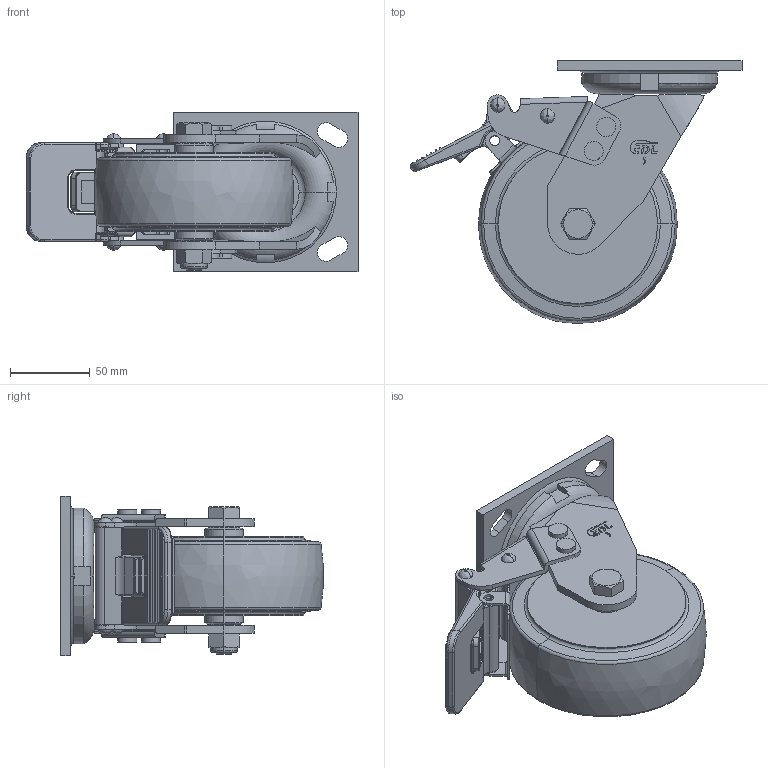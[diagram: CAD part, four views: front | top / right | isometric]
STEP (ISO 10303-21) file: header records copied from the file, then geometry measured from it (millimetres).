
FILE_DESCRIPTION((''),'2;1');
FILE_NAME('73125H-735-86_ASM','2020-11-27T',('lenovo'),(''),'PRO/ENGINEER BY PARAMETRIC TECHNOLOGY CORPORATION, 2010280','PRO/ENGINEER BY PARAMETRIC TECHNOLOGY CORPORATION, 2010280','');
FILE_SCHEMA(('CONFIG_CONTROL_DESIGN'));
Length unit declared in the file: millimetre
Products named in the file (12): 7310-201; 7310-211; 7315-355; 7315-321_ASM; 7315-525; 700-64OFF; 7314-401; 700-64ON; 735-86; 7010-33; 7010-34; 73125H-735-86_ASM
Assembly tree (11 placements, depth 3):
  73125H-735-86_ASM
    7310-201
    7315-321_ASM
      7310-211
      7315-355
    7315-525
    700-64OFF
    7314-401
    700-64ON
    735-86
    7010-33
    7010-34
Bounding box: 208.43 x 164.83 x 100 mm (x, y, z)
Volume: 847961.3 mm3; surface area: 159424.8 mm2
Topology: 11 solids, 11 shells, 688 faces, 1658 edges, 1014 vertices
Faces by surface type: plane 301, cylinder 215, torus 72, bspline 60, cone 38, sphere 2
Entity records: 23595 total; most frequent: CARTESIAN_POINT 7467, DIRECTION 3320, ORIENTED_EDGE 3316, EDGE_CURVE 1658, AXIS2_PLACEMENT_3D 1218, VERTEX_POINT 1014, VECTOR 884, LINE 884
